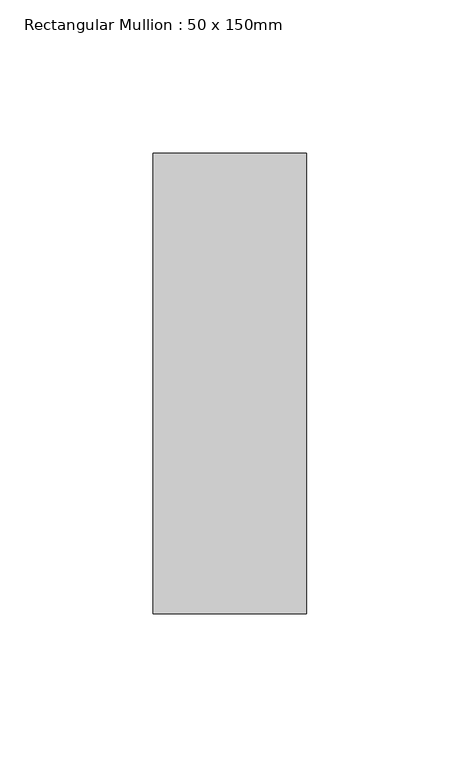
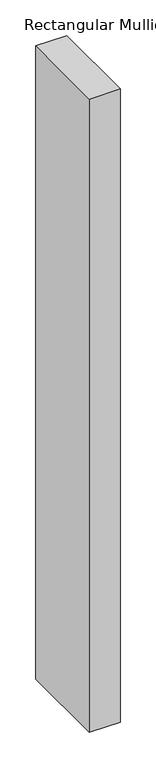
"""IFC4 building model written with IfcOpenShell, lengths in millimetres: member geometry, Rectangular Mullion : 50 x 150mm."""

from ifc_helpers import new_model, si_unit, frame, origin, place, context, project, spatial, polyline, outline, extrude, source, transform, mapped, element, save


def rectangular_mullion_50_x_150mm_5ab7184c(model_context):
    return source(origin(), model_context, "Body", "SweptSolid", [
        extrude(outline(polyline([(0.0, 75.0), (0.0, -75.0), (-50.0, -75.0), (-50.0, 75.0), (0.0, 75.0)])), frame((0.0, 0.0, -1082.5), z_axis=(0.0, 0.0, 1.0), x_axis=(1.0, 0.0, 0.0)), (0.0, 0.0, 1.0), 1082.5),
    ])


if __name__ == "__main__":
    model = new_model("IFC4")
    model_context = context("Model", 3, world=origin())
    ifc_project = project(units=[si_unit("LENGTHUNIT", "METRE", prefix="MILLI")], contexts=[model_context])
    site = spatial("IfcSite", under=ifc_project)
    building = spatial("IfcBuilding", under=site)
    placement = place(None, origin())
    rectangular_mullion_50_x_150mm_shape = rectangular_mullion_50_x_150mm_5ab7184c(model_context)
    element("IfcMember", 1, ObjectType="Rectangular Mullion : 50 x 150mm", at=placement, inside=building, context=model_context, shape_type="MappedRepresentation", body=[
        mapped(rectangular_mullion_50_x_150mm_shape, transform((0.0, 0.0, 0.0), x_axis=(1.0, 0.0, 0.0), y_axis=(0.0, 1.0, 0.0), z_axis=(0.0, 0.0, 1.0))),
    ])
    save(model, "model.ifc")
